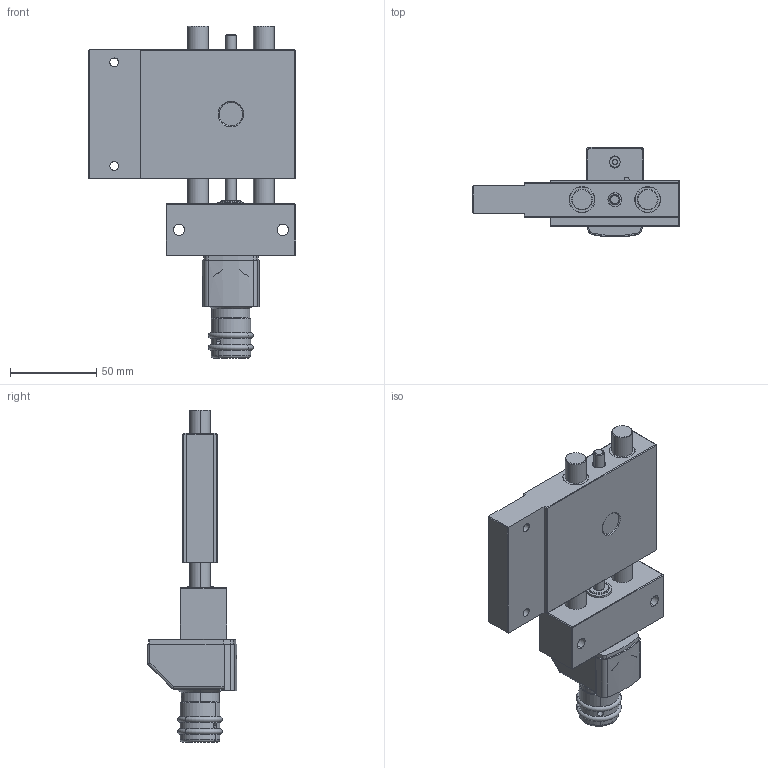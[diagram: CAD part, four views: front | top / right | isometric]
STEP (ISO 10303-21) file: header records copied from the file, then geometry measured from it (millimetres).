
FILE_DESCRIPTION (( 'STEP AP203' ), '1' );
FILE_NAME ('KT2512-KR-PAE-Kreuztisch.STEP', '2016-01-15T16:56:58', ( '' ), ( '' ), 'SwSTEP 2.0', 'SolidWorks 2014', '' );
FILE_SCHEMA (( 'CONFIG_CONTROL_DESIGN' ));
Length unit declared in the file: millimetre
Products named in the file (4): KT12-000-02-K-Schlitten-komplett; KT2512-KR-PAE-Kreuztisch; PT2512-000-01-Festteil-PA(E); PAE0812-DT-000-Elektronischer-Positionsanzeiger-Komplett_n_Standard
Assembly tree (3 placements, depth 2):
  KT2512-KR-PAE-Kreuztisch
    PT2512-000-01-Festteil-PA(E)
    PAE0812-DT-000-Elektronischer-Positionsanzeiger-Komplett_n_Standard
    KT12-000-02-K-Schlitten-komplett
Bounding box: 120 x 51.97 x 192.13 mm (x, y, z)
Volume: 285441.7 mm3; surface area: 71932.8 mm2
Topology: 3 solids, 8 shells, 783 faces, 1921 edges, 1230 vertices
Faces by surface type: plane 441, cylinder 224, cone 108, torus 6, sphere 4
Entity records: 23883 total; most frequent: CARTESIAN_POINT 4542, DIRECTION 4032, ORIENTED_EDGE 3830, EDGE_CURVE 1915, AXIS2_PLACEMENT_3D 1400, LINE 1232, VECTOR 1232, VERTEX_POINT 1230
